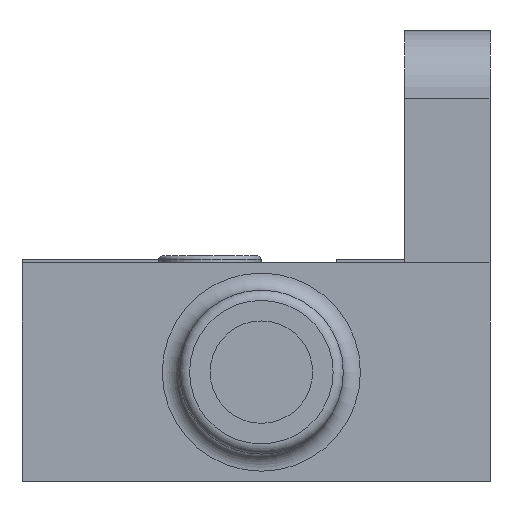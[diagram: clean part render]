
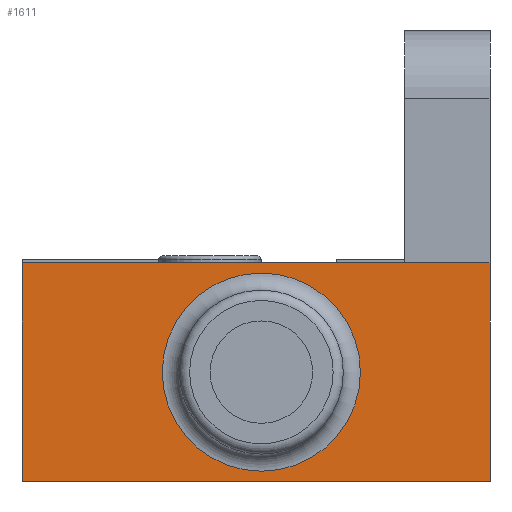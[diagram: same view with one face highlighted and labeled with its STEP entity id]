
A CAD part, front view. The second image highlights one B-rep face of the part: STEP entity #1611.
In plain terms, the highlighted planar face has unit normal (0, -1, 0).
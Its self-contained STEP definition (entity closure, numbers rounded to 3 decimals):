
#75 = CARTESIAN_POINT ( 'NONE',  ( 7.007, -26.7, 0.3 ) ) ;
#168 = ORIENTED_EDGE ( 'NONE', *, *, #271, .T. ) ;
#227 = CARTESIAN_POINT ( 'NONE',  ( 0., -26.7, 6.4 ) ) ;
#239 = CARTESIAN_POINT ( 'NONE',  ( 0., -26.7, 0. ) ) ;
#260 = ORIENTED_EDGE ( 'NONE', *, *, #1625, .T. ) ;
#262 = DIRECTION ( 'NONE',  ( 0., -1., 0. ) ) ;
#271 = EDGE_CURVE ( 'NONE', #1166, #659, #1612, .T. ) ;
#341 = EDGE_CURVE ( 'NONE', #489, #1166, #1589, .T. ) ;
#374 = EDGE_LOOP ( 'NONE', ( #1598, #1465, #168, #260 ) ) ;
#397 = PLANE ( 'NONE',  #1449 ) ;
#413 = CARTESIAN_POINT ( 'NONE',  ( 13.7, -26.7, 6.4 ) ) ;
#428 = DIRECTION ( 'NONE',  ( -1., 0., 0. ) ) ;
#441 = CARTESIAN_POINT ( 'NONE',  ( 0., -26.7, 0. ) ) ;
#489 = VERTEX_POINT ( 'NONE', #1430 ) ;
#503 = EDGE_LOOP ( 'NONE', ( #1234 ) ) ;
#659 = VERTEX_POINT ( 'NONE', #227 ) ;
#673 = VECTOR ( 'NONE', #674, 1000. ) ;
#674 = DIRECTION ( 'NONE',  ( 0., 0., -1. ) ) ;
#718 = CARTESIAN_POINT ( 'NONE',  ( 13.7, -26.7, 0. ) ) ;
#844 = VECTOR ( 'NONE', #1410, 1000. ) ;
#866 = VECTOR ( 'NONE', #428, 1000. ) ;
#904 = CIRCLE ( 'NONE', #1175, 2.9 ) ;
#951 = CARTESIAN_POINT ( 'NONE',  ( 13.7, -26.7, 0. ) ) ;
#953 = EDGE_CURVE ( 'NONE', #1320, #489, #1643, .T. ) ;
#972 = LINE ( 'NONE', #1434, #673 ) ;
#1007 = CARTESIAN_POINT ( 'NONE',  ( 7.007, -26.7, 3.2 ) ) ;
#1021 = VECTOR ( 'NONE', #1290, 1000. ) ;
#1136 = DIRECTION ( 'NONE',  ( 0., 0., -1. ) ) ;
#1166 = VERTEX_POINT ( 'NONE', #1570 ) ;
#1175 = AXIS2_PLACEMENT_3D ( 'NONE', #1007, #1526, #1136 ) ;
#1218 = FACE_BOUND ( 'NONE', #503, .T. ) ;
#1234 = ORIENTED_EDGE ( 'NONE', *, *, #1730, .T. ) ;
#1290 = DIRECTION ( 'NONE',  ( 1., 0., 0. ) ) ;
#1320 = VERTEX_POINT ( 'NONE', #239 ) ;
#1405 = FACE_OUTER_BOUND ( 'NONE', #374, .T. ) ;
#1410 = DIRECTION ( 'NONE',  ( 0., 0., 1. ) ) ;
#1430 = CARTESIAN_POINT ( 'NONE',  ( 13.7, -26.7, 0. ) ) ;
#1434 = CARTESIAN_POINT ( 'NONE',  ( 0., -26.7, 6.4 ) ) ;
#1449 = AXIS2_PLACEMENT_3D ( 'NONE', #951, #262, #1761 ) ;
#1465 = ORIENTED_EDGE ( 'NONE', *, *, #341, .T. ) ;
#1526 = DIRECTION ( 'NONE',  ( 0., 1., 0. ) ) ;
#1570 = CARTESIAN_POINT ( 'NONE',  ( 13.7, -26.7, 6.4 ) ) ;
#1589 = LINE ( 'NONE', #718, #844 ) ;
#1598 = ORIENTED_EDGE ( 'NONE', *, *, #953, .T. ) ;
#1611 = ADVANCED_FACE ( 'NONE', ( #1218, #1405 ), #397, .T. ) ;
#1612 = LINE ( 'NONE', #413, #866 ) ;
#1620 = VERTEX_POINT ( 'NONE', #75 ) ;
#1625 = EDGE_CURVE ( 'NONE', #659, #1320, #972, .T. ) ;
#1643 = LINE ( 'NONE', #441, #1021 ) ;
#1730 = EDGE_CURVE ( 'NONE', #1620, #1620, #904, .T. ) ;
#1761 = DIRECTION ( 'NONE',  ( 0., 0., -1. ) ) ;
